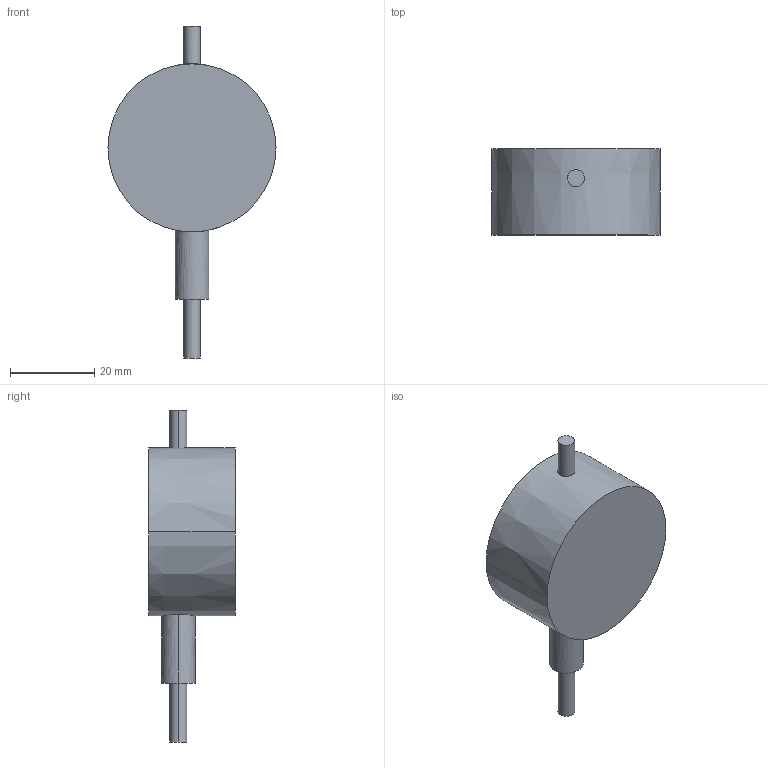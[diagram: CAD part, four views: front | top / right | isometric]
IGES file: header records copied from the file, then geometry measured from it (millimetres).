
Start section: 3D InterOp IGES (v. 2018 1.0.2), Spatial Corp. Copyright (c) 1999-2017.
Global section: file name: MUA_10220_5.igs; native system: Spatial Corp.; preprocessor: 3D InterOp GENERIC/IGES 3.0; author: Noname; organization: Noname; date: 20191010.134827; units: metre
Bounding box: 40 x 20.5 x 79 mm (x, y, z)
Surface area: 5786 mm2 (no closed solid volume)
Topology: 0 solids, 0 shells, 13 faces, 48 edges, 48 vertices
Faces by surface type: revolution 8, extrusion 5
